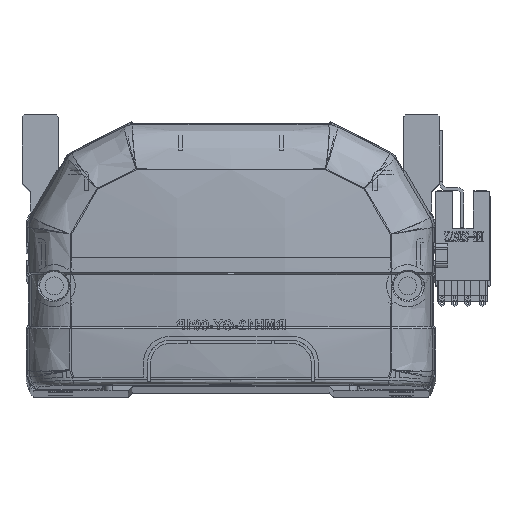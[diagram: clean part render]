
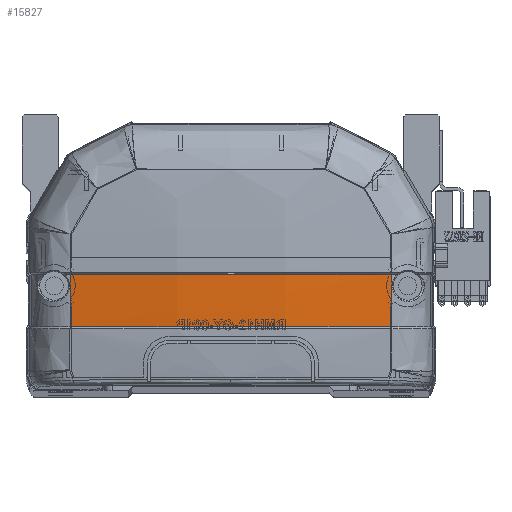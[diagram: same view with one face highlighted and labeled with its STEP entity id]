
A CAD part, top view. The second image highlights one B-rep face of the part: STEP entity #15827.
In plain terms, the highlighted free-form (B-spline) face has degree [3, 3] with [4, 4] control points.
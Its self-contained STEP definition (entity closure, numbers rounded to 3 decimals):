
#63 = ORIENTED_EDGE ( 'NONE', *, *, #49696, .F. ) ;
#488 = EDGE_CURVE ( 'NONE', #17305, #55230, #10207, .T. ) ;
#809 = CARTESIAN_POINT ( 'NONE',  ( -33.365, 15.83, -6.848 ) ) ;
#814 = CARTESIAN_POINT ( 'NONE',  ( 40.461, 15.757, -5.8 ) ) ;
#1003 = CARTESIAN_POINT ( 'NONE',  ( -13.598, 24.342, -10.47 ) ) ;
#2250 = ORIENTED_EDGE ( 'NONE', *, *, #45908, .T. ) ;
#4100 =( BOUNDED_SURFACE ( )  B_SPLINE_SURFACE ( 3, 3, ( 
 ( #814, #48879, #20361, #25383 ),
 ( #25169, #53688, #19936, #5774 ),
 ( #24746, #58063, #1003, #58659 ),
 ( #58452, #34296, #6198, #44327 ) ),
 .UNSPECIFIED., .F., .F., .F. ) 
 B_SPLINE_SURFACE_WITH_KNOTS ( ( 4, 4 ),
 ( 4, 4 ),
 ( 0., 1. ),
 ( 0., 1. ),
 .UNSPECIFIED. ) 
 GEOMETRIC_REPRESENTATION_ITEM ( )  RATIONAL_B_SPLINE_SURFACE ( (
 ( 1., 1., 1., 1.),
 ( 0.992, 0.992, 0.992, 0.992),
 ( 0.992, 0.992, 0.992, 0.992),
 ( 1., 1., 1., 1.) ) ) 
 REPRESENTATION_ITEM ( '' )  SURFACE ( )  );
#5356 = CARTESIAN_POINT ( 'NONE',  ( 26.761, 15.83, -7.945 ) ) ;
#5774 = CARTESIAN_POINT ( 'NONE',  ( 13.598, 28.769, -10.535 ) ) ;
#6198 = CARTESIAN_POINT ( 'NONE',  ( -40.461, 24.47, -6.231 ) ) ;
#6745 = CARTESIAN_POINT ( 'NONE',  ( -39.963, 28.706, -6.372 ) ) ;
#9394 = CARTESIAN_POINT ( 'NONE',  ( 39.966, 24.413, -6.306 ) ) ;
#9611 = CARTESIAN_POINT ( 'NONE',  ( 39.963, 28.706, -6.372 ) ) ;
#10207 = B_SPLINE_CURVE_WITH_KNOTS ( 'NONE', 3,
 ( #16648, #44758, #44547, #25986 ),
 .UNSPECIFIED., .F., .F.,
 ( 4, 4 ),
 ( 0., 1. ),
 .UNSPECIFIED. ) ;
#10398 = CARTESIAN_POINT ( 'NONE',  ( -36.679, 15.83, -6.395 ) ) ;
#13746 = CARTESIAN_POINT ( 'NONE',  ( 39.985, 15.83, -5.879 ) ) ;
#14973 = CARTESIAN_POINT ( 'NONE',  ( -23.389, 15.83, -7.947 ) ) ;
#15827 = ADVANCED_FACE ( 'NONE', ( #53102 ), #4100, .F. ) ;
#15905 = CARTESIAN_POINT ( 'NONE',  ( 39.963, 28.706, -6.372 ) ) ;
#16554 = CARTESIAN_POINT ( 'NONE',  ( -13.373, 28.707, -9.468 ) ) ;
#16648 = CARTESIAN_POINT ( 'NONE',  ( -39.963, 28.706, -6.372 ) ) ;
#16958 = ORIENTED_EDGE ( 'NONE', *, *, #31313, .F. ) ;
#17305 = VERTEX_POINT ( 'NONE', #17583 ) ;
#17583 = CARTESIAN_POINT ( 'NONE',  ( -39.963, 28.706, -6.372 ) ) ;
#19936 = CARTESIAN_POINT ( 'NONE',  ( 13.598, 24.342, -10.47 ) ) ;
#20219 = B_SPLINE_CURVE_WITH_KNOTS ( 'NONE', 3,
 ( #13746, #5356, #48041, #24954, #48661, #14973, #57637, #809, #10398, #29112 ),
 .UNSPECIFIED., .F., .F.,
 ( 4, 2, 2, 2, 4 ),
 ( 0., 0.04, 0.06, 0.07, 0.08 ),
 .UNSPECIFIED. ) ;
#20361 = CARTESIAN_POINT ( 'NONE',  ( 40.461, 24.47, -6.231 ) ) ;
#22848 = CARTESIAN_POINT ( 'NONE',  ( 39.985, 15.83, -5.879 ) ) ;
#24270 = VERTEX_POINT ( 'NONE', #59032 ) ;
#24746 = CARTESIAN_POINT ( 'NONE',  ( -13.598, 15.499, -10.032 ) ) ;
#24954 = CARTESIAN_POINT ( 'NONE',  ( -6.692, 15.83, -8.984 ) ) ;
#25169 = CARTESIAN_POINT ( 'NONE',  ( 13.598, 15.499, -10.032 ) ) ;
#25383 = CARTESIAN_POINT ( 'NONE',  ( 40.461, 28.832, -6.296 ) ) ;
#25986 = CARTESIAN_POINT ( 'NONE',  ( -39.985, 15.83, -5.879 ) ) ;
#29112 = CARTESIAN_POINT ( 'NONE',  ( -39.985, 15.83, -5.879 ) ) ;
#31313 = EDGE_CURVE ( 'NONE', #35837, #55230, #20219, .T. ) ;
#34296 = CARTESIAN_POINT ( 'NONE',  ( -40.461, 20.111, -6.066 ) ) ;
#34840 = CARTESIAN_POINT ( 'NONE',  ( -26.748, 28.706, -8.432 ) ) ;
#35436 = CARTESIAN_POINT ( 'NONE',  ( 26.749, 28.706, -8.432 ) ) ;
#35837 = VERTEX_POINT ( 'NONE', #22848 ) ;
#43117 = CARTESIAN_POINT ( 'NONE',  ( -39.985, 15.83, -5.879 ) ) ;
#44327 = CARTESIAN_POINT ( 'NONE',  ( -40.461, 28.832, -6.296 ) ) ;
#44547 = CARTESIAN_POINT ( 'NONE',  ( -39.973, 20.118, -6.142 ) ) ;
#44758 = CARTESIAN_POINT ( 'NONE',  ( -39.966, 24.412, -6.306 ) ) ;
#45908 = EDGE_CURVE ( 'NONE', #35837, #24270, #54715, .T. ) ;
#48041 = CARTESIAN_POINT ( 'NONE',  ( 13.38, 15.83, -8.984 ) ) ;
#48661 = CARTESIAN_POINT ( 'NONE',  ( -13.384, 15.83, -8.724 ) ) ;
#48879 = CARTESIAN_POINT ( 'NONE',  ( 40.461, 20.111, -6.066 ) ) ;
#48994 = CARTESIAN_POINT ( 'NONE',  ( 13.375, 28.707, -9.468 ) ) ;
#49696 = EDGE_CURVE ( 'NONE', #17305, #24270, #52792, .T. ) ;
#52499 = CARTESIAN_POINT ( 'NONE',  ( 39.985, 15.83, -5.879 ) ) ;
#52792 = B_SPLINE_CURVE_WITH_KNOTS ( 'NONE', 3,
 ( #6745, #34840, #16554, #48994, #35436, #15905 ),
 .UNSPECIFIED., .F., .F.,
 ( 4, 2, 4 ),
 ( 0., 0.5, 1. ),
 .UNSPECIFIED. ) ;
#53074 = EDGE_LOOP ( 'NONE', ( #2250, #63, #58665, #16958 ) ) ;
#53102 = FACE_OUTER_BOUND ( 'NONE', #53074, .T. ) ;
#53688 = CARTESIAN_POINT ( 'NONE',  ( 13.598, 19.918, -10.302 ) ) ;
#54715 = B_SPLINE_CURVE_WITH_KNOTS ( 'NONE', 3,
 ( #52499, #57094, #9394, #9611 ),
 .UNSPECIFIED., .F., .F.,
 ( 4, 4 ),
 ( 0., 1. ),
 .UNSPECIFIED. ) ;
#55230 = VERTEX_POINT ( 'NONE', #43117 ) ;
#57094 = CARTESIAN_POINT ( 'NONE',  ( 39.973, 20.12, -6.142 ) ) ;
#57637 = CARTESIAN_POINT ( 'NONE',  ( -26.721, 15.83, -7.624 ) ) ;
#58063 = CARTESIAN_POINT ( 'NONE',  ( -13.598, 19.918, -10.302 ) ) ;
#58452 = CARTESIAN_POINT ( 'NONE',  ( -40.461, 15.757, -5.8 ) ) ;
#58659 = CARTESIAN_POINT ( 'NONE',  ( -13.598, 28.769, -10.535 ) ) ;
#58665 = ORIENTED_EDGE ( 'NONE', *, *, #488, .T. ) ;
#59032 = CARTESIAN_POINT ( 'NONE',  ( 39.963, 28.706, -6.372 ) ) ;
